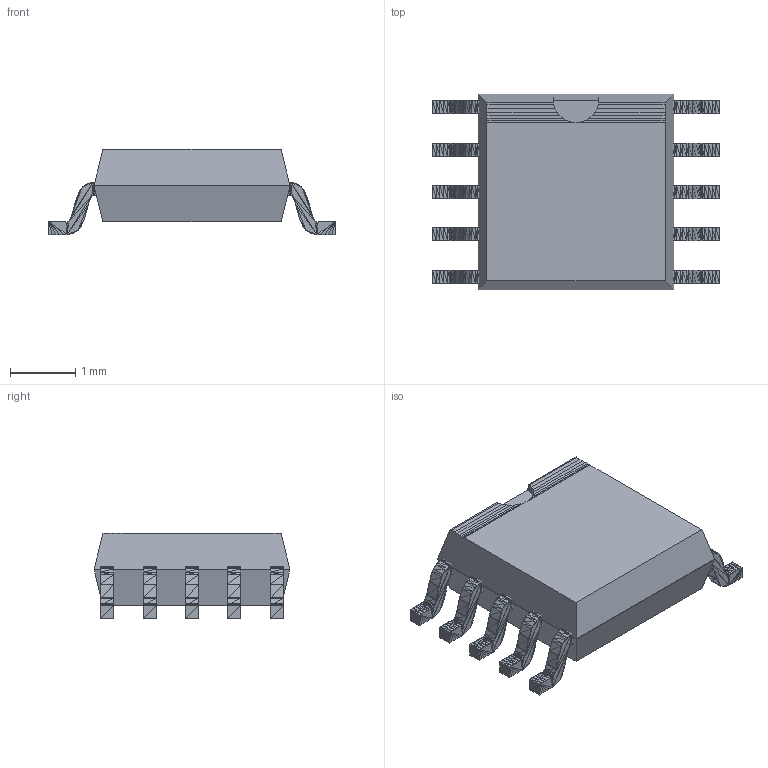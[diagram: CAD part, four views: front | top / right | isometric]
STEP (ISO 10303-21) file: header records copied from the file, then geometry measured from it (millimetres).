
FILE_DESCRIPTION(('shape.step'),'2;1');
FILE_NAME('shape.step','2026-11-04',('tscircuit'),('tscircuit'),'generator','','');
FILE_SCHEMA(('AUTOMOTIVE_DESIGN { 1 0 10303 214 1 1 1 1 }'));
Length unit declared in the file: millimetre
Products named in the file (1): shape
Bounding box: 4.4 x 3 x 1.3 mm (x, y, z)
Volume: 9.5 mm3; surface area: 39.3 mm2
Topology: 11 solids, 11 shells, 1851 faces, 2819 edges, 990 vertices
Faces by surface type: plane 1851
Entity records: 33828 total; most frequent: DIRECTION 6523, ORIENTED_EDGE 5638, CARTESIAN_POINT 2842, VECTOR 2819, LINE 2819, EDGE_CURVE 2819, AXIS2_PLACEMENT_3D 1852, PLANE 1851
